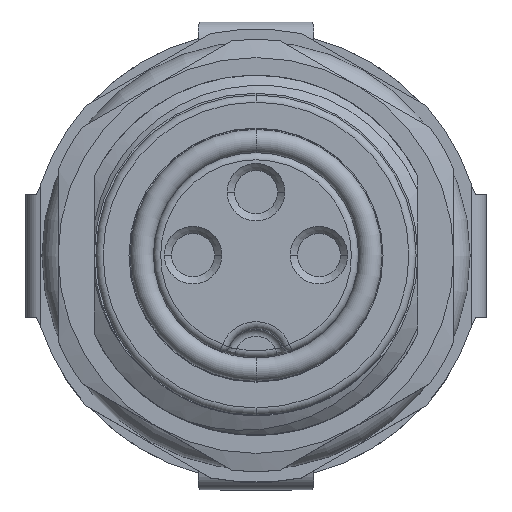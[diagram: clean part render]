
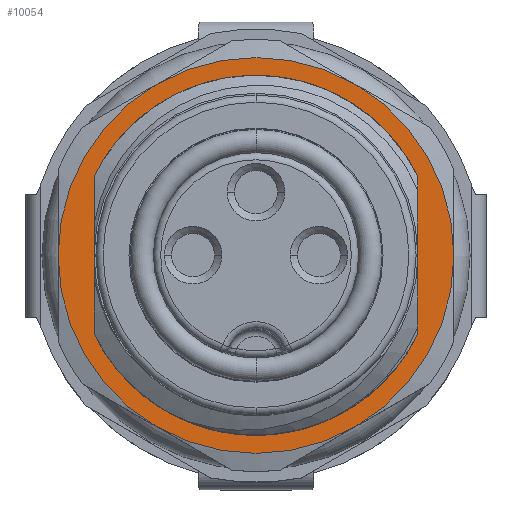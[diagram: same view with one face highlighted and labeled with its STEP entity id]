
A CAD part, top view. The second image highlights one B-rep face of the part: STEP entity #10054.
In plain terms, the highlighted planar face has unit normal (0, 0, 1).
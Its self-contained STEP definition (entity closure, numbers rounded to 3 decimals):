
#719=DIRECTION('',(0.,-1.,0.));
#720=VECTOR('',#719,2.595);
#721=CARTESIAN_POINT('',(4.5,1.576,-6.));
#722=LINE('',#721,#720);
#1268=CARTESIAN_POINT('',(0.,0.,-6.));
#1269=DIRECTION('',(0.,0.,-1.));
#1270=DIRECTION('',(-0.383,0.924,0.));
#1271=AXIS2_PLACEMENT_3D('',#1268,#1269,#1270);
#1355=DIRECTION('',(0.,1.,0.));
#1356=VECTOR('',#1355,2.595);
#1357=CARTESIAN_POINT('',(-4.5,-1.019,-6.));
#1358=LINE('',#1357,#1356);
#3215=CARTESIAN_POINT('',(1.913,4.619,-6.));
#3216=CARTESIAN_POINT('',(2.053,4.552,-6.));
#3217=CARTESIAN_POINT('',(2.325,4.406,-6.));
#3218=CARTESIAN_POINT('',(2.711,4.149,-6.));
#3219=CARTESIAN_POINT('',(3.069,3.858,-6.));
#3220=CARTESIAN_POINT('',(3.398,3.537,-6.));
#3221=CARTESIAN_POINT('',(3.693,3.188,-6.));
#3222=CARTESIAN_POINT('',(3.955,2.813,-6.));
#3223=CARTESIAN_POINT('',(4.177,2.418,-6.));
#3224=CARTESIAN_POINT('',(4.363,2.004,-6.));
#3225=CARTESIAN_POINT('',(4.459,1.721,-6.));
#3226=CARTESIAN_POINT('',(4.5,1.576,-6.));
#3241=CARTESIAN_POINT('',(4.5,-1.019,-6.));
#3242=CARTESIAN_POINT('',(4.46,-1.158,-6.));
#3243=CARTESIAN_POINT('',(4.367,-1.429,-6.));
#3244=CARTESIAN_POINT('',(4.19,-1.821,-6.));
#3245=CARTESIAN_POINT('',(3.979,-2.193,-6.));
#3246=CARTESIAN_POINT('',(3.734,-2.542,-6.));
#3247=CARTESIAN_POINT('',(3.459,-2.865,-6.));
#3248=CARTESIAN_POINT('',(3.258,-3.06,-6.));
#3249=CARTESIAN_POINT('',(3.153,-3.153,-6.));
#3452=CARTESIAN_POINT('',(0.,0.,-6.));
#3453=DIRECTION('',(0.,0.,-1.));
#3454=DIRECTION('',(0.5,0.866,0.));
#3455=AXIS2_PLACEMENT_3D('',#3452,#3453,#3454);
#3457=CARTESIAN_POINT('',(0.,0.,-6.));
#3458=DIRECTION('',(0.,0.,-1.));
#3459=DIRECTION('',(1.,0.,0.));
#3460=AXIS2_PLACEMENT_3D('',#3457,#3458,#3459);
#3462=CARTESIAN_POINT('',(0.,0.,-6.));
#3463=DIRECTION('',(0.,0.,-1.));
#3464=DIRECTION('',(-0.5,-0.866,0.));
#3465=AXIS2_PLACEMENT_3D('',#3462,#3463,#3464);
#3467=CARTESIAN_POINT('',(0.,0.,-6.));
#3468=DIRECTION('',(0.,0.,-1.));
#3469=DIRECTION('',(-1.,0.,0.));
#3470=AXIS2_PLACEMENT_3D('',#3467,#3468,#3469);
#3472=CARTESIAN_POINT('',(-3.153,-3.153,-6.));
#3473=CARTESIAN_POINT('',(-3.258,-3.06,-6.));
#3474=CARTESIAN_POINT('',(-3.459,-2.864,-6.));
#3475=CARTESIAN_POINT('',(-3.735,-2.541,-6.));
#3476=CARTESIAN_POINT('',(-3.979,-2.193,-6.));
#3477=CARTESIAN_POINT('',(-4.19,-1.821,-6.));
#3478=CARTESIAN_POINT('',(-4.367,-1.43,-6.));
#3479=CARTESIAN_POINT('',(-4.46,-1.158,-6.));
#3480=CARTESIAN_POINT('',(-4.5,-1.019,-6.));
#3549=CARTESIAN_POINT('',(-4.5,1.576,-6.));
#3550=CARTESIAN_POINT('',(-4.459,1.72,-6.));
#3551=CARTESIAN_POINT('',(-4.363,2.004,-6.));
#3552=CARTESIAN_POINT('',(-4.178,2.418,-6.));
#3553=CARTESIAN_POINT('',(-3.954,2.813,-6.));
#3554=CARTESIAN_POINT('',(-3.694,3.187,-6.));
#3555=CARTESIAN_POINT('',(-3.397,3.537,-6.));
#3556=CARTESIAN_POINT('',(-3.07,3.858,-6.));
#3557=CARTESIAN_POINT('',(-2.711,4.149,-6.));
#3558=CARTESIAN_POINT('',(-2.325,4.406,-6.));
#3559=CARTESIAN_POINT('',(-2.053,4.552,-6.));
#3560=CARTESIAN_POINT('',(-1.913,4.619,-6.));
#4266=CARTESIAN_POINT('',(3.153,-3.153,-6.));
#4267=CARTESIAN_POINT('',(3.049,-3.257,-6.));
#4268=CARTESIAN_POINT('',(2.833,-3.452,-6.));
#4269=CARTESIAN_POINT('',(2.481,-3.713,-6.));
#4270=CARTESIAN_POINT('',(2.105,-3.939,-6.));
#4271=CARTESIAN_POINT('',(1.709,-4.126,-6.));
#4272=CARTESIAN_POINT('',(1.296,-4.274,-6.));
#4273=CARTESIAN_POINT('',(0.871,-4.38,-6.));
#4274=CARTESIAN_POINT('',(0.438,-4.444,-6.));
#4275=CARTESIAN_POINT('',(0.,-4.466,-6.));
#4276=CARTESIAN_POINT('',(-0.438,-4.444,-6.));
#4277=CARTESIAN_POINT('',(-0.871,-4.38,-6.));
#4278=CARTESIAN_POINT('',(-1.297,-4.274,-6.));
#4279=CARTESIAN_POINT('',(-1.709,-4.126,-6.));
#4280=CARTESIAN_POINT('',(-2.105,-3.939,-6.));
#4281=CARTESIAN_POINT('',(-2.482,-3.713,-6.));
#4282=CARTESIAN_POINT('',(-2.833,-3.452,-6.));
#4283=CARTESIAN_POINT('',(-3.049,-3.256,-6.));
#4284=CARTESIAN_POINT('',(-3.153,-3.153,-6.));
#4457=CARTESIAN_POINT('',(0.,0.,-6.));
#4458=DIRECTION('',(0.,0.,1.));
#4459=DIRECTION('',(-0.5,-0.866,0.));
#4460=AXIS2_PLACEMENT_3D('',#4457,#4458,#4459);
#4462=CARTESIAN_POINT('',(0.,0.,-6.));
#4463=DIRECTION('',(0.,0.,1.));
#4464=DIRECTION('',(0.5,0.866,0.));
#4465=AXIS2_PLACEMENT_3D('',#4462,#4463,#4464);
#4536=CARTESIAN_POINT('',(-2.75,-4.763,-6.));
#4592=CARTESIAN_POINT('',(-5.5,0.,-6.));
#4648=CARTESIAN_POINT('',(-2.75,4.763,-6.));
#4694=CARTESIAN_POINT('',(2.75,4.763,-6.));
#4750=CARTESIAN_POINT('',(5.5,0.,-6.));
#4792=CARTESIAN_POINT('',(2.75,-4.763,-6.));
#4898=CARTESIAN_POINT('',(-1.913,4.619,-6.));
#4899=CARTESIAN_POINT('',(1.913,4.619,-6.));
#4900=VERTEX_POINT('',#4898);
#4901=VERTEX_POINT('',#4899);
#4906=CARTESIAN_POINT('',(4.5,1.576,-6.));
#4907=CARTESIAN_POINT('',(4.5,-1.019,-6.));
#4908=VERTEX_POINT('',#4906);
#4909=VERTEX_POINT('',#4907);
#4914=CARTESIAN_POINT('',(-4.5,-1.019,-6.));
#4915=CARTESIAN_POINT('',(-4.5,1.576,-6.));
#4916=VERTEX_POINT('',#4914);
#4917=VERTEX_POINT('',#4915);
#4918=VERTEX_POINT('',#3249);
#4919=VERTEX_POINT('',#3472);
#4938=VERTEX_POINT('',#4694);
#4942=VERTEX_POINT('',#4648);
#4950=VERTEX_POINT('',#4592);
#4958=VERTEX_POINT('',#4536);
#4962=VERTEX_POINT('',#4792);
#4968=VERTEX_POINT('',#4750);
#10022=CARTESIAN_POINT('',(0.,0.,-6.));
#10023=DIRECTION('',(0.,0.,1.));
#10024=DIRECTION('',(1.,0.,0.));
#10025=AXIS2_PLACEMENT_3D('',#10022,#10023,#10024);
#10026=PLANE('',#10025);
#10028=ORIENTED_EDGE('',*,*,#10027,.F.);
#10030=ORIENTED_EDGE('',*,*,#10029,.T.);
#10032=ORIENTED_EDGE('',*,*,#10031,.T.);
#10034=ORIENTED_EDGE('',*,*,#10033,.F.);
#10036=ORIENTED_EDGE('',*,*,#10035,.T.);
#10038=ORIENTED_EDGE('',*,*,#10037,.T.);
#10039=EDGE_LOOP('',(#10028,#10030,#10032,#10034,#10036,#10038));
#10040=FACE_OUTER_BOUND('',#10039,.F.);
#10041=ORIENTED_EDGE('',*,*,#6601,.F.);
#10043=ORIENTED_EDGE('',*,*,#10042,.F.);
#10044=ORIENTED_EDGE('',*,*,#6726,.F.);
#10046=ORIENTED_EDGE('',*,*,#10045,.F.);
#10048=ORIENTED_EDGE('',*,*,#10047,.F.);
#10049=ORIENTED_EDGE('',*,*,#9453,.F.);
#10050=ORIENTED_EDGE('',*,*,#6437,.F.);
#10051=ORIENTED_EDGE('',*,*,#9450,.F.);
#10052=EDGE_LOOP('',(#10041,#10043,#10044,#10046,#10048,#10049,#10050,#10051));
#10053=FACE_BOUND('',#10052,.F.);
#1272=CIRCLE('',#1271,5.);
#3227=B_SPLINE_CURVE_WITH_KNOTS('',3,(#3215,#3216,#3217,#3218,#3219,#3220,#3221,
#3222,#3223,#3224,#3225,#3226),.UNSPECIFIED.,.F.,.F.,(4,1,1,1,1,1,1,1,1,4),
(0.,0.111,0.222,0.333,0.444,
0.556,0.667,0.778,0.889,1.),
.UNSPECIFIED.);
#3250=B_SPLINE_CURVE_WITH_KNOTS('',3,(#3241,#3242,#3243,#3244,#3245,#3246,#3247,
#3248,#3249),.UNSPECIFIED.,.F.,.F.,(4,1,1,1,1,1,4),(0.,0.167,
0.333,0.5,0.667,0.833,1.),
.UNSPECIFIED.);
#3456=CIRCLE('',#3455,5.5);
#3461=CIRCLE('',#3460,5.5);
#3466=CIRCLE('',#3465,5.5);
#3471=CIRCLE('',#3470,5.5);
#3481=B_SPLINE_CURVE_WITH_KNOTS('',3,(#3472,#3473,#3474,#3475,#3476,#3477,#3478,
#3479,#3480),.UNSPECIFIED.,.F.,.F.,(4,1,1,1,1,1,4),(0.,0.167,
0.333,0.5,0.667,0.833,1.),
.UNSPECIFIED.);
#3561=B_SPLINE_CURVE_WITH_KNOTS('',3,(#3549,#3550,#3551,#3552,#3553,#3554,#3555,
#3556,#3557,#3558,#3559,#3560),.UNSPECIFIED.,.F.,.F.,(4,1,1,1,1,1,1,1,1,4),
(0.,0.111,0.222,0.333,0.444,
0.556,0.667,0.778,0.889,1.),
.UNSPECIFIED.);
#4285=B_SPLINE_CURVE_WITH_KNOTS('',3,(#4266,#4267,#4268,#4269,#4270,#4271,#4272,
#4273,#4274,#4275,#4276,#4277,#4278,#4279,#4280,#4281,#4282,#4283,#4284),
.UNSPECIFIED.,.F.,.F.,(4,1,1,1,1,1,1,1,1,1,1,1,1,1,1,1,4),(0.,0.063,0.125,
0.188,0.25,0.313,0.375,0.438,0.5,0.563,0.625,0.688,
0.75,0.813,0.875,0.938,1.),.UNSPECIFIED.);
#4461=CIRCLE('',#4460,5.5);
#4466=CIRCLE('',#4465,5.5);
#6437=EDGE_CURVE('',#4908,#4909,#722,.T.);
#6601=EDGE_CURVE('',#4900,#4901,#1272,.T.);
#6726=EDGE_CURVE('',#4916,#4917,#1358,.T.);
#9450=EDGE_CURVE('',#4901,#4908,#3227,.T.);
#9453=EDGE_CURVE('',#4909,#4918,#3250,.T.);
#10027=EDGE_CURVE('',#4938,#4942,#4466,.T.);
#10029=EDGE_CURVE('',#4938,#4968,#3456,.T.);
#10031=EDGE_CURVE('',#4968,#4962,#3461,.T.);
#10033=EDGE_CURVE('',#4958,#4962,#4461,.T.);
#10035=EDGE_CURVE('',#4958,#4950,#3466,.T.);
#10037=EDGE_CURVE('',#4950,#4942,#3471,.T.);
#10042=EDGE_CURVE('',#4917,#4900,#3561,.T.);
#10045=EDGE_CURVE('',#4919,#4916,#3481,.T.);
#10047=EDGE_CURVE('',#4918,#4919,#4285,.T.);
#10054=ADVANCED_FACE('',(#10040,#10053),#10026,.T.);
